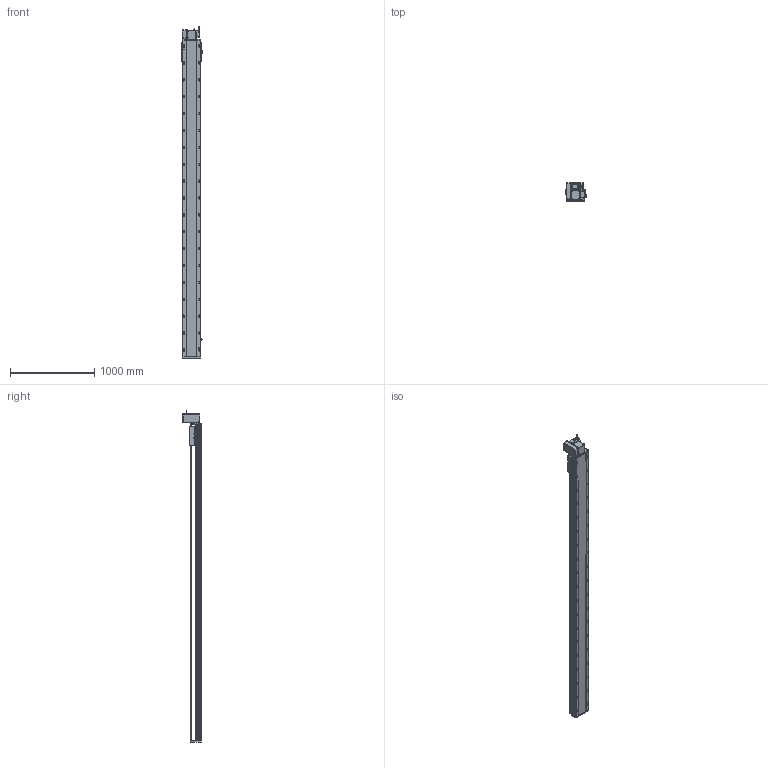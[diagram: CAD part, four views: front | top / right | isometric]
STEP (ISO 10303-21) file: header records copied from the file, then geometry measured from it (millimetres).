
FILE_DESCRIPTION (( 'STEP AP214' ), '1' );
FILE_NAME ('RTB22S-XX-3400-LW-M75-C4.STEP', '2025-12-12T07:07:51', ( '' ), ( '' ), 'SwSTEP 2.0', 'SolidWorks 2018', '' );
FILE_SCHEMA (( 'AUTOMOTIVE_DESIGN' ));
Length unit declared in the file: millimetre
Products named in the file (14): RTH22-GY-013外置感应片^RTB22S-XX-XX-LW-M75-C4; RTB22S-LW-々湍釱蚾饜^RTB22S-XX-XX-LW-M75-C4; RTB22S-GY-005P^RTB22S-LW-々湍釱蚾饜_RTB22S-XX-XX-LW-M75-C4; RTB22S-GY-008-M75--萇儂啣^RTB22S-LW-々湍釱蚾饜_RTB22S-XX-XX-LW-M75-C4; 750W萇儂^RTB22S-XX-XX-LW-M75-C4; RTB22S-XX-3400-LW-M75-C4; RTB22S-L-011菁釱^RTB22S-XX-XX-LW-M75-C4; RTB22S-GY-007奻裔^RTB22S-XX-XX-LW-M75-C4; RTB22S-L-004賑釱^RTB22S-XX-XX-LW-M75-C4; RTB22S-GY-014--々湍釱^RTB22S-LW-々湍釱蚾饜_RTB22S-XX-XX-LW-M75-C4; RTB22S-GY-017P^RTB22S-LW-々湍釱蚾饜_RTB22S-XX-XX-LW-M75-C4; RTB22S-GY-001耜裔^RTB22S-XX-XX-LW-M75-C4; RTB22S-GY-018P^RTB22S-LW-々湍釱蚾饜_RTB22S-XX-XX-LW-M75-C4; OMRON EE-SX672 传感器^RTB22S-XX-XX-LW-M75-C4
Assembly tree (16 placements, depth 3):
  RTB22S-XX-3400-LW-M75-C4
    RTB22S-L-011菁釱^RTB22S-XX-XX-LW-M75-C4
    RTB22S-GY-001耜裔^RTB22S-XX-XX-LW-M75-C4
    750W萇儂^RTB22S-XX-XX-LW-M75-C4
    RTB22S-GY-007奻裔^RTB22S-XX-XX-LW-M75-C4
    RTB22S-L-004賑釱^RTB22S-XX-XX-LW-M75-C4
    RTH22-GY-013外置感应片^RTB22S-XX-XX-LW-M75-C4
    OMRON EE-SX672 传感器^RTB22S-XX-XX-LW-M75-C4  x3
    RTB22S-LW-々湍釱蚾饜^RTB22S-XX-XX-LW-M75-C4
      RTB22S-GY-014--々湍釱^RTB22S-LW-々湍釱蚾饜_RTB22S-XX-XX-LW-M75-C4
      RTB22S-GY-017P^RTB22S-LW-々湍釱蚾饜_RTB22S-XX-XX-LW-M75-C4  x2
      RTB22S-GY-005P^RTB22S-LW-々湍釱蚾饜_RTB22S-XX-XX-LW-M75-C4
      RTB22S-GY-008-M75--萇儂啣^RTB22S-LW-々湍釱蚾饜_RTB22S-XX-XX-LW-M75-C4
      RTB22S-GY-018P^RTB22S-LW-々湍釱蚾饜_RTB22S-XX-XX-LW-M75-C4
Bounding box: 238.5 x 215.5 x 3932.2 mm (x, y, z)
Volume: 49252686.6 mm3; surface area: 5011232.5 mm2
Topology: 15 solids, 15 shells, 2181 faces, 5936 edges, 3782 vertices
Faces by surface type: plane 937, cylinder 754, bspline 296, cone 182, sphere 8, torus 4
Entity records: 60006 total; most frequent: CARTESIAN_POINT 16800, ORIENTED_EDGE 8572, DIRECTION 8440, EDGE_CURVE 4286, AXIS2_PLACEMENT_3D 3050, VERTEX_POINT 2786, VECTOR 2340, LINE 2340
